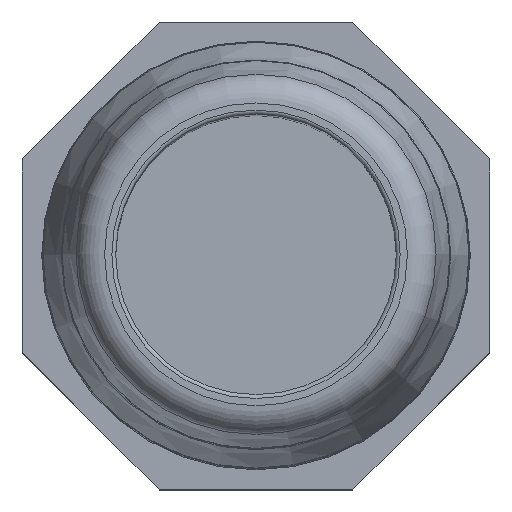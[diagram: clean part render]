
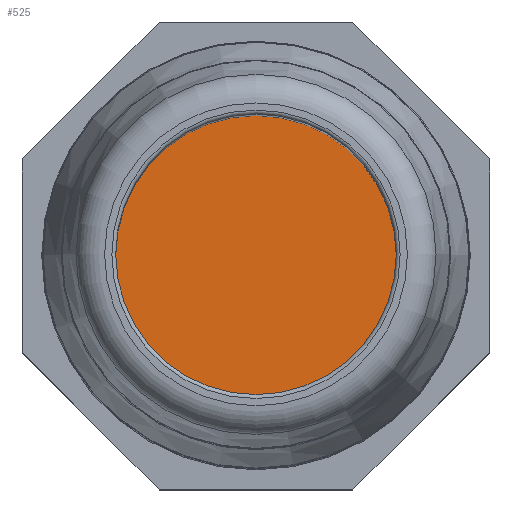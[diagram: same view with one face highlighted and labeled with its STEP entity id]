
A CAD part, top view. The second image highlights one B-rep face of the part: STEP entity #525.
In plain terms, the highlighted planar face has unit normal (0, 0, 1).
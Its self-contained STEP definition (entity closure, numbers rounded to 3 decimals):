
#78=PLANE('',#576);
#137=FACE_OUTER_BOUND('',#185,.T.);
#185=EDGE_LOOP('',(#412));
#260=CIRCLE('',#577,7.2);
#302=VERTEX_POINT('',#859);
#352=EDGE_CURVE('',#302,#302,#260,.T.);
#412=ORIENTED_EDGE('',*,*,#352,.F.);
#525=ADVANCED_FACE('',(#137),#78,.T.);
#576=AXIS2_PLACEMENT_3D('',#858,#673,#674);
#577=AXIS2_PLACEMENT_3D('',#860,#675,#676);
#673=DIRECTION('center_axis',(0.,0.,1.));
#674=DIRECTION('ref_axis',(1.,0.,0.));
#675=DIRECTION('center_axis',(0.,0.,-1.));
#676=DIRECTION('ref_axis',(1.,0.,0.));
#858=CARTESIAN_POINT('Origin',(0.,0.,28.));
#859=CARTESIAN_POINT('',(-7.2,0.,28.));
#860=CARTESIAN_POINT('Origin',(0.,0.,28.));
